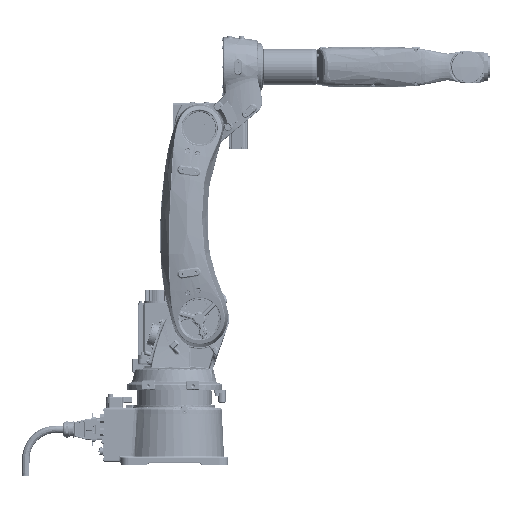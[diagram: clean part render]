
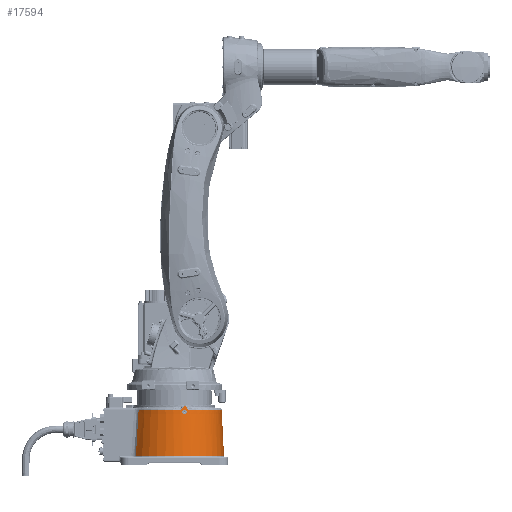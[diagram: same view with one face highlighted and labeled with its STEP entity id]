
A CAD part, front view. The second image highlights one B-rep face of the part: STEP entity #17594.
In plain terms, the highlighted toroidal (fillet/blend) face has major radius 2165 mm and minor radius 2005 mm.
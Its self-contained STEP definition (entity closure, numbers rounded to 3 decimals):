
#2305=TOROIDAL_SURFACE('',#150484,2165.,2005.);
#5468=FACE_BOUND('',#38382,.T.);
#5469=FACE_BOUND('',#38383,.T.);
#11106=B_SPLINE_CURVE_WITH_KNOTS('',3,(#213323,#213324,#213325,#213326,
#213327,#213328),.UNSPECIFIED.,.F.,.F.,(4,2,4),(0.,0.5,1.),
 .UNSPECIFIED.);
#11108=B_SPLINE_CURVE_WITH_KNOTS('',3,(#213366,#213367,#213368,#213369,
#213370,#213371,#213372,#213373,#213374,#213375),.UNSPECIFIED.,.F.,.F.,
(4,2,2,2,4),(0.,0.25,0.5,0.75,1.),.UNSPECIFIED.);
#11113=B_SPLINE_CURVE_WITH_KNOTS('',3,(#213469,#213470,#213471,#213472,
#213473,#213474,#213475,#213476),.UNSPECIFIED.,.F.,.F.,(4,2,2,4),(0.,0.5,
0.75,1.),.UNSPECIFIED.);
#11140=B_SPLINE_CURVE_WITH_KNOTS('',3,(#214676,#214677,#214678,#214679),
 .UNSPECIFIED.,.F.,.F.,(4,4),(0.,1.),.UNSPECIFIED.);
#11141=B_SPLINE_CURVE_WITH_KNOTS('',3,(#214694,#214695,#214696,#214697),
 .UNSPECIFIED.,.F.,.F.,(4,4),(0.,1.),.UNSPECIFIED.);
#11144=B_SPLINE_CURVE_WITH_KNOTS('',3,(#214818,#214819,#214820,#214821),
 .UNSPECIFIED.,.F.,.F.,(4,4),(0.,1.),.UNSPECIFIED.);
#11146=B_SPLINE_CURVE_WITH_KNOTS('',3,(#214839,#214840,#214841,#214842),
 .UNSPECIFIED.,.F.,.F.,(4,4),(0.,1.),.UNSPECIFIED.);
#11148=B_SPLINE_CURVE_WITH_KNOTS('',3,(#214967,#214968,#214969,#214970,
#214971,#214972,#214973,#214974,#214975,#214976,#214977,#214978,#214979,
#214980,#214981,#214982,#214983,#214984),.UNSPECIFIED.,.T.,.F.,(2,2,2,2,
2,2,2,2,2,2,2),(-0.125,0.,0.125,0.25,0.375,0.5,0.625,0.75,0.875,1.,1.125),
 .UNSPECIFIED.);
#17594=ADVANCED_FACE('',(#5468,#5469),#2305,.F.);
#38382=EDGE_LOOP('',(#75575,#75576,#75577,#75578,#75579,#75580,#75581,#75582,
#75583,#75584));
#38383=EDGE_LOOP('',(#75585));
#62755=CIRCLE('',#150423,167.256);
#62763=CIRCLE('',#150439,160.056);
#62764=CIRCLE('',#150441,160.056);
#75575=ORIENTED_EDGE('',*,*,#129358,.T.);
#75576=ORIENTED_EDGE('',*,*,#129364,.T.);
#75577=ORIENTED_EDGE('',*,*,#129637,.T.);
#75578=ORIENTED_EDGE('',*,*,#129617,.T.);
#75579=ORIENTED_EDGE('',*,*,#129619,.T.);
#75580=ORIENTED_EDGE('',*,*,#129623,.T.);
#75581=ORIENTED_EDGE('',*,*,#129610,.T.);
#75582=ORIENTED_EDGE('',*,*,#129612,.T.);
#75583=ORIENTED_EDGE('',*,*,#129638,.T.);
#75584=ORIENTED_EDGE('',*,*,#129354,.T.);
#75585=ORIENTED_EDGE('',*,*,#129666,.T.);
#114796=VERTEX_POINT('',#213329);
#114797=VERTEX_POINT('',#213330);
#114800=VERTEX_POINT('',#213365);
#114802=VERTEX_POINT('',#213468);
#114939=VERTEX_POINT('',#214643);
#114941=VERTEX_POINT('',#214675);
#114942=VERTEX_POINT('',#214693);
#114943=VERTEX_POINT('',#214763);
#114944=VERTEX_POINT('',#214817);
#114945=VERTEX_POINT('',#214838);
#114966=VERTEX_POINT('',#214985);
#129354=EDGE_CURVE('',#114796,#114797,#11106,.T.);
#129358=EDGE_CURVE('',#114797,#114800,#11108,.T.);
#129364=EDGE_CURVE('',#114800,#114802,#11113,.T.);
#129610=EDGE_CURVE('',#114939,#114941,#11140,.T.);
#129612=EDGE_CURVE('',#114941,#114942,#11141,.T.);
#129617=EDGE_CURVE('',#114943,#114944,#11144,.T.);
#129619=EDGE_CURVE('',#114944,#114945,#11146,.T.);
#129623=EDGE_CURVE('',#114945,#114939,#62755,.T.);
#129637=EDGE_CURVE('',#114802,#114943,#62763,.T.);
#129638=EDGE_CURVE('',#114942,#114796,#62764,.T.);
#129666=EDGE_CURVE('',#114966,#114966,#11148,.T.);
#150423=AXIS2_PLACEMENT_3D('',#214881,#168633,#168634);
#150439=AXIS2_PLACEMENT_3D('',#214907,#168671,#168672);
#150441=AXIS2_PLACEMENT_3D('',#214909,#168675,#168676);
#150484=AXIS2_PLACEMENT_3D('',#215034,#168801,#168802);
#168633=DIRECTION('',(0.,0.,1.));
#168634=DIRECTION('',(1.,0.,0.));
#168671=DIRECTION('',(0.,0.,-1.));
#168672=DIRECTION('',(1.,0.,0.));
#168675=DIRECTION('',(0.,0.,-1.));
#168676=DIRECTION('',(1.,0.,0.));
#168801=DIRECTION('',(0.,0.,-1.));
#168802=DIRECTION('',(-1.,0.,0.));
#213323=CARTESIAN_POINT('',(47.792,-152.754,185.037));
#213324=CARTESIAN_POINT('',(46.996,-152.997,185.863));
#213325=CARTESIAN_POINT('',(46.031,-153.285,186.547));
#213326=CARTESIAN_POINT('',(44.448,-153.74,188.244));
#213327=CARTESIAN_POINT('',(43.815,-153.914,189.244));
#213328=CARTESIAN_POINT('',(43.458,-154.009,190.377));
#213329=CARTESIAN_POINT('',(47.792,-152.754,185.037));
#213330=CARTESIAN_POINT('',(43.458,-154.009,190.377));
#213365=CARTESIAN_POINT('',(28.037,-157.546,190.829));
#213366=CARTESIAN_POINT('',(43.458,-154.009,190.377));
#213367=CARTESIAN_POINT('',(42.943,-154.146,192.009));
#213368=CARTESIAN_POINT('',(41.904,-154.432,193.418));
#213369=CARTESIAN_POINT('',(39.236,-155.126,195.385));
#213370=CARTESIAN_POINT('',(37.589,-155.535,195.948));
#213371=CARTESIAN_POINT('',(34.293,-156.295,196.055));
#213372=CARTESIAN_POINT('',(32.596,-156.656,195.598));
#213373=CARTESIAN_POINT('',(29.787,-157.219,193.79));
#213374=CARTESIAN_POINT('',(28.651,-157.429,192.428));
#213375=CARTESIAN_POINT('',(28.037,-157.546,190.829));
#213468=CARTESIAN_POINT('',(20.92,-158.683,185.037));
#213469=CARTESIAN_POINT('',(28.037,-157.546,190.829));
#213470=CARTESIAN_POINT('',(27.467,-157.654,189.344));
#213471=CARTESIAN_POINT('',(26.34,-157.858,188.171));
#213472=CARTESIAN_POINT('',(24.343,-158.182,186.919));
#213473=CARTESIAN_POINT('',(23.634,-158.292,186.586));
#213474=CARTESIAN_POINT('',(22.208,-158.503,185.931));
#213475=CARTESIAN_POINT('',(21.48,-158.605,185.581));
#213476=CARTESIAN_POINT('',(20.92,-158.683,185.037));
#214643=CARTESIAN_POINT('',(-128.365,107.225,29.575));
#214675=CARTESIAN_POINT('',(-119.33,106.671,184.849));
#214676=CARTESIAN_POINT('',(-128.365,107.225,29.575));
#214677=CARTESIAN_POINT('',(-122.902,106.899,81.168));
#214678=CARTESIAN_POINT('',(-119.828,106.703,132.967));
#214679=CARTESIAN_POINT('',(-119.33,106.671,184.849));
#214693=CARTESIAN_POINT('',(-119.328,106.671,185.037));
#214694=CARTESIAN_POINT('',(-119.33,106.671,184.849));
#214695=CARTESIAN_POINT('',(-119.329,106.671,184.912));
#214696=CARTESIAN_POINT('',(-119.329,106.671,184.974));
#214697=CARTESIAN_POINT('',(-119.328,106.671,185.037));
#214763=CARTESIAN_POINT('',(-119.328,-106.671,185.037));
#214817=CARTESIAN_POINT('',(-119.33,-106.671,184.849));
#214818=CARTESIAN_POINT('',(-119.328,-106.671,185.037));
#214819=CARTESIAN_POINT('',(-119.329,-106.671,184.974));
#214820=CARTESIAN_POINT('',(-119.329,-106.671,184.912));
#214821=CARTESIAN_POINT('',(-119.33,-106.671,184.849));
#214838=CARTESIAN_POINT('',(-128.365,-107.225,29.575));
#214839=CARTESIAN_POINT('',(-119.33,-106.671,184.849));
#214840=CARTESIAN_POINT('',(-119.828,-106.703,132.968));
#214841=CARTESIAN_POINT('',(-122.902,-106.899,81.167));
#214842=CARTESIAN_POINT('',(-128.365,-107.225,29.575));
#214881=CARTESIAN_POINT('',(0.,0.,29.575));
#214907=CARTESIAN_POINT('',(0.,0.,185.037));
#214909=CARTESIAN_POINT('',(0.,0.,185.037));
#214967=CARTESIAN_POINT('',(36.333,-156.083,168.839));
#214968=CARTESIAN_POINT('',(32.168,-156.988,169.231));
#214969=CARTESIAN_POINT('',(30.188,-157.356,170.272));
#214970=CARTESIAN_POINT('',(27.501,-157.802,173.508));
#214971=CARTESIAN_POINT('',(26.828,-157.883,175.702));
#214972=CARTESIAN_POINT('',(27.253,-157.763,179.906));
#214973=CARTESIAN_POINT('',(28.337,-157.562,181.905));
#214974=CARTESIAN_POINT('',(31.624,-156.913,184.554));
#214975=CARTESIAN_POINT('',(33.763,-156.467,185.168));
#214976=CARTESIAN_POINT('',(37.861,-155.53,184.75));
#214977=CARTESIAN_POINT('',(39.833,-155.036,183.707));
#214978=CARTESIAN_POINT('',(42.49,-154.359,180.498));
#214979=CARTESIAN_POINT('',(43.174,-154.186,178.323));
#214980=CARTESIAN_POINT('',(42.746,-154.357,174.075));
#214981=CARTESIAN_POINT('',(41.652,-154.693,172.098));
#214982=CARTESIAN_POINT('',(38.442,-155.561,169.488));
#214983=CARTESIAN_POINT('',(36.333,-156.083,168.839));
#214984=CARTESIAN_POINT('',(32.168,-156.988,169.231));
#214985=CARTESIAN_POINT('',(34.251,-156.536,169.035));
#215034=CARTESIAN_POINT('',(0.,0.,200.));
